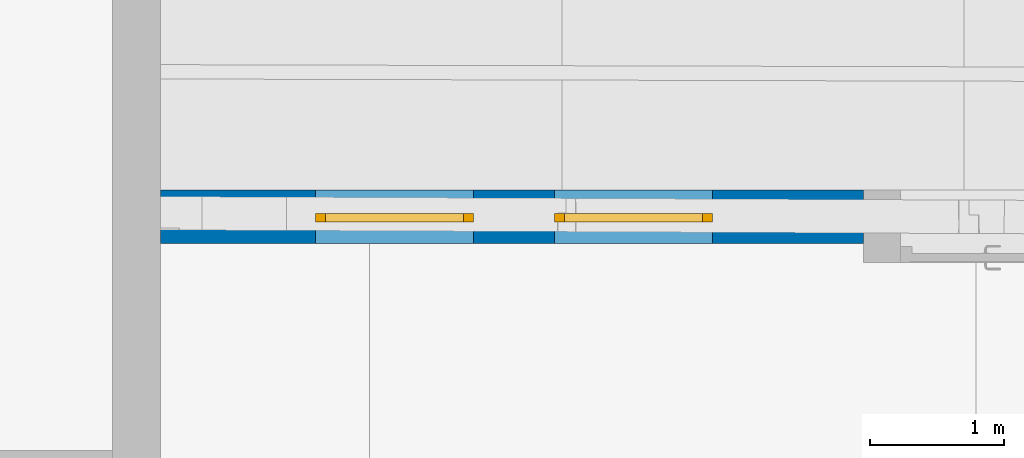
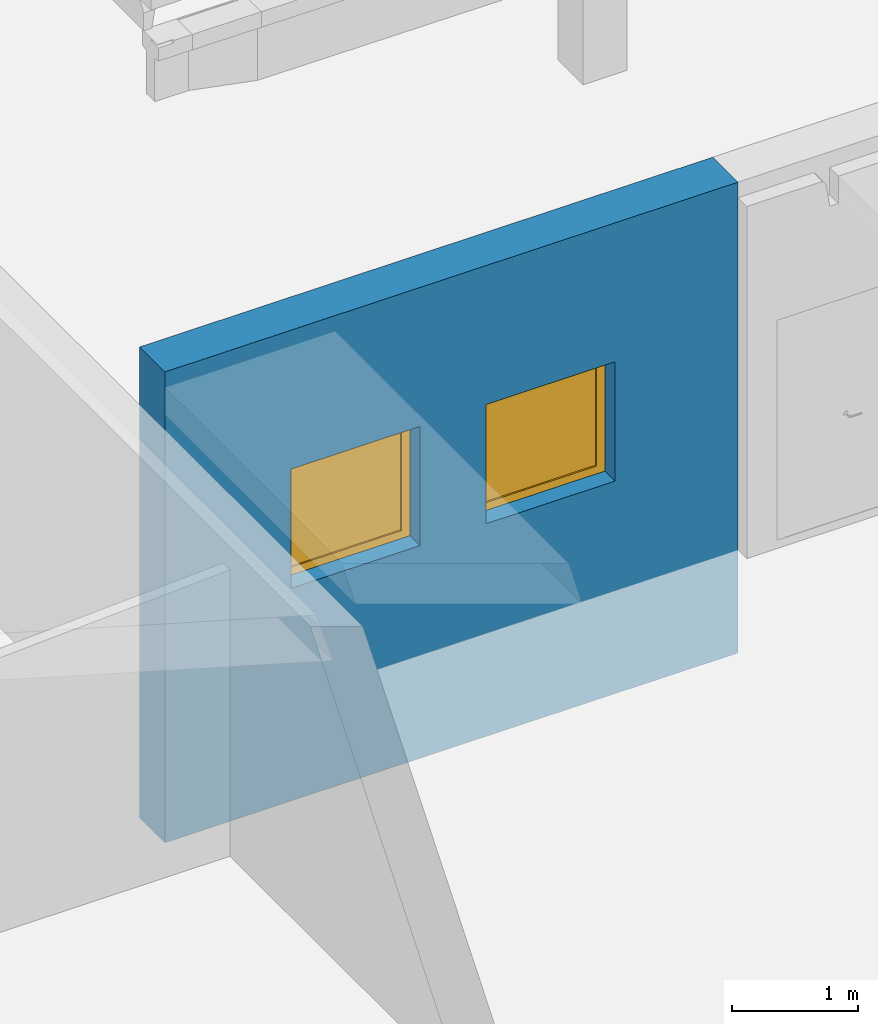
# One storey, part 86 of 301: 2 windows, 1 wall, 2 openings.
"""IFC2X3 building model written with IfcOpenShell, lengths in millimetres."""

from ifc_helpers import new_model, entity, si_unit, converted_unit, derived_unit, money_unit, direction, frame, origin_with_axes, place, context, subcontext, project, spatial, open_shell, faceted_brep, surface_model, source, transform, mapped, material, type_object, element, fill, save


model = new_model("IFC2X3")

# Units and contexts
model_context = context("Model", 3, precision=0.01, world=origin_with_axes(), true_north=direction((0.0, 1.0)))
body_context = subcontext(model_context, "Body", "Model", "MODEL_VIEW")
ifc_project = project(units=[si_unit("LENGTHUNIT", "METRE", prefix="MILLI"), si_unit("AREAUNIT", "SQUARE_METRE"), si_unit("VOLUMEUNIT", "CUBIC_METRE"), converted_unit("PLANEANGLEUNIT", "DEGREE", entity("IfcPlaneAngleMeasure", 0.0174532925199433), si_unit("PLANEANGLEUNIT", "RADIAN"), dimensions=[0, 0, 0, 0, 0, 0, 0]), money_unit("EUR"), converted_unit("TIMEUNIT", "Year", entity("IfcTimeMeasure", 31557600.0), si_unit("TIMEUNIT", "SECOND"), dimensions=[0, 0, 1, 0, 0, 0, 0]), si_unit("MASSUNIT", "GRAM", prefix="KILO"), si_unit("THERMODYNAMICTEMPERATUREUNIT", "DEGREE_CELSIUS"), si_unit("LUMINOUSINTENSITYUNIT", "LUMEN"), si_unit("ENERGYUNIT", "JOULE", prefix="MEGA"), derived_unit("THERMALCONDUCTANCEUNIT", [(si_unit("POWERUNIT", "WATT"), 1), (si_unit("LENGTHUNIT", "METRE"), -1), (si_unit("THERMODYNAMICTEMPERATUREUNIT", "KELVIN"), -1)]), derived_unit("SPECIFICHEATCAPACITYUNIT", [(si_unit("ENERGYUNIT", "JOULE"), 1), (si_unit("MASSUNIT", "GRAM", prefix="KILO"), -1), (si_unit("THERMODYNAMICTEMPERATUREUNIT", "KELVIN"), -1)]), derived_unit("MASSDENSITYUNIT", [(si_unit("MASSUNIT", "GRAM", prefix="KILO"), 1), (si_unit("VOLUMEUNIT", "CUBIC_METRE"), -1)])], contexts=[model_context])

# Site, building, storey
site_placement = place(None, frame((0.0, 0.0, 8650.0), z_axis=(0.0, 0.0, 1.0), x_axis=(1.0, 0.0, 0.0)))
site = spatial("IfcSite", under=ifc_project, at=site_placement, Name="43301:001:0844", CompositionType="ELEMENT")
building_placement = place(site_placement, origin_with_axes())
building = spatial("IfcBuilding", under=site, at=building_placement, Name="Kuressaare Ametikooli tuulikute mehaanikute õppekorpus", CompositionType="ELEMENT")
storey_placement = place(building_placement, origin_with_axes())
storey = spatial("IfcBuildingStorey", under=building, at=storey_placement, Name="1.korrus", CompositionType="ELEMENT", Elevation=0.0)

# Wall, openings, windows
ifc_material = material(Name="GENEERILINE - KONSTRUKTRIOON")
wall_type = type_object("IfcWallType", Name="GENEERILINE - KONSTRUKTRIOON 400", PredefinedType="NOTDEFINED")
wall_placement = place(storey_placement, frame((93508.56510495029, 37845.7716648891, -1000.0), z_axis=(0.0, 0.0, 1.0), x_axis=(-1.0, 0.0, 0.0)))
wall = element("IfcWall", 1, at=wall_placement, inside=storey, type_object=wall_type, material=ifc_material, context=body_context, shape_type="Brep", body=[
    faceted_brep([(0.0, 0.0, 4560.000000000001), (5249.808658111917, 0.0, 4560.000000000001), (5249.808658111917, 0.0, 0.0), (0.0, 0.0, 0.0), (2913.811038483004, 0.0, 3215.0), (2913.811038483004, 0.0, 2060.0), (4093.811038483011, 0.0, 2060.0), (4093.811038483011, 0.0, 3215.0), (2307.919134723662, 0.0, 2060.0), (2307.919134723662, 0.0, 3215.0), (1127.919134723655, 0.0, 3215.0), (1127.919134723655, 0.0, 2060.0), (0.0, -399.9999999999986, 4560.000000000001), (5249.808658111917, -399.9999999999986, 4560.000000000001), (5249.808658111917, -399.9999999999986, 0.0), (0.0, -399.9999999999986, 0.0), (2913.811038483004, -399.9999999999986, 3215.0), (2913.811038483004, -399.9999999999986, 2060.0), (4093.811038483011, -399.9999999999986, 2060.0), (4093.811038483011, -399.9999999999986, 3215.0), (2307.919134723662, -399.9999999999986, 2060.0), (2307.919134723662, -399.9999999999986, 3215.0), (1127.919134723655, -399.9999999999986, 3215.0), (1127.919134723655, -399.9999999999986, 2060.0)], [[[0, 1, 2, 3], [4, 5, 6, 7], [8, 9, 10, 11]], [[12, 13, 1, 0]], [[1, 13, 14, 2]], [[3, 2, 14, 15]], [[15, 12, 0, 3]], [[4, 16, 17, 5]], [[17, 18, 6, 5]], [[18, 19, 7, 6]], [[7, 19, 16, 4]], [[9, 8, 20, 21]], [[22, 10, 9, 21]], [[23, 11, 10, 22]], [[8, 11, 23, 20]], [[15, 14, 13, 12], [19, 18, 17, 16], [23, 22, 21, 20]]]),
])
opening_1_placement = place(wall_placement, frame((3503.811038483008, 0.0, 2060.0), z_axis=(0.0, 0.0, 1.0), x_axis=(1.0, 0.0, 0.0)))
opening_1 = element("IfcOpeningElement", 2, at=opening_1_placement, cuts=wall, Name="SA-XX", context=body_context, shape_type="Brep", body=[
    faceted_brep([(590.0000000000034, -225.0000000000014, 0.0), (590.0000000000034, -225.0000000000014, 1155.0), (590.0000000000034, -400.9999999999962, 1155.0), (590.0000000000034, -400.9999999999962, 0.0), (590.0000000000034, 1.000000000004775, 0.0), (590.0000000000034, 1.000000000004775, 1155.0), (-590.0000000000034, -224.9999999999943, 1155.0), (-590.0000000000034, -400.9999999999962, 1155.0), (-590.0000000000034, 1.00000000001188, 1155.0), (-590.0000000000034, -400.9999999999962, 0.0), (-590.0000000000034, -225.0000000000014, 0.0), (-590.0000000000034, 1.000000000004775, 0.0)], [[[0, 1, 2, 3]], [[1, 0, 4, 5]], [[6, 7, 2, 1, 5, 8]], [[7, 9, 3, 2]], [[0, 3, 9, 10, 11, 4]], [[5, 4, 11, 8]], [[6, 10, 9, 7]], [[10, 6, 8, 11]]]),
])
opening_2_placement = place(wall_placement, frame((1717.919134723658, 0.0, 2060.0), z_axis=(0.0, 0.0, 1.0), x_axis=(1.0, 0.0, 0.0)))
opening_2 = element("IfcOpeningElement", 3, at=opening_2_placement, cuts=wall, Name="SA-XX", context=body_context, shape_type="Brep", body=[
    faceted_brep([(590.0000000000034, -225.0000000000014, 0.0), (590.0000000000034, -225.0000000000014, 1155.0), (590.0000000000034, -400.9999999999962, 1155.0), (590.0000000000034, -400.9999999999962, 0.0), (590.0000000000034, 1.00000000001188, 0.0), (590.0000000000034, 1.00000000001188, 1155.0), (-590.0000000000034, -224.9999999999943, 1155.0), (-590.0000000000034, -400.9999999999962, 1155.0), (-590.0000000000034, 1.000000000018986, 1155.0), (-590.0000000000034, -400.9999999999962, 0.0), (-590.0000000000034, -225.0000000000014, 0.0), (-590.0000000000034, 1.00000000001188, 0.0)], [[[0, 1, 2, 3]], [[1, 0, 4, 5]], [[6, 7, 2, 1, 5, 8]], [[7, 9, 3, 2]], [[0, 3, 9, 10, 11, 4]], [[5, 4, 11, 8]], [[6, 10, 9, 7]], [[10, 6, 8, 11]]]),
])
window_style = type_object("IfcWindowStyle", Name="Window 27", ConstructionType="NOTDEFINED", OperationType="SINGLE_PANEL", ParameterTakesPrecedence=False, Sizeable=False)
shared_shape = source(origin_with_axes(), body_context, "Body", "SurfaceModel", [
    faceted_brep([(515.0, -65.00000000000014, 1080.0), (590.0, -65.00000000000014, 1080.0), (590.0, 0.0, 1080.0), (515.0, 0.0, 1080.0), (515.0, -65.00000000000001, 75.0), (590.0, -65.00000000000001, 75.0), (590.0, 0.0, 75.00000000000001), (515.0, 0.0, 75.00000000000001)], [[[0, 1, 2, 3]], [[0, 4, 5, 1]], [[1, 5, 6, 2]], [[3, 2, 6, 7]], [[4, 0, 3, 7]], [[5, 4, 7, 6]]]),
    faceted_brep([(-515.0, -65.00000000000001, 75.0), (-590.0, -65.00000000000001, 75.0), (-590.0, 0.0, 75.00000000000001), (-515.0, 0.0, 75.00000000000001), (-515.0, -65.00000000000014, 1080.0), (-590.0, -65.00000000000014, 1080.0), (-590.0, 0.0, 1080.0), (-515.0, 0.0, 1080.0)], [[[0, 1, 2, 3]], [[0, 4, 5, 1]], [[1, 5, 6, 2]], [[3, 2, 6, 7]], [[4, 0, 3, 7]], [[5, 4, 7, 6]]]),
    faceted_brep([(515.0, -65.00000000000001, 75.0), (590.0, -65.00000000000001, 75.0), (590.0, 0.0, 75.00000000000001), (515.0, 0.0, 75.00000000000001), (-515.0, -65.00000000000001, 75.0), (-590.0, -65.00000000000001, 75.0), (-590.0, -65.0, 0.0), (590.0, -65.0, 0.0), (590.0, 0.0, 0.0), (-590.0, 0.0, 0.0), (-590.0, 0.0, 75.00000000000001), (-515.0, 0.0, 75.00000000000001)], [[[0, 1, 2, 3]], [[0, 4, 5, 6, 7, 1]], [[1, 7, 8, 2]], [[3, 2, 8, 9, 10, 11]], [[4, 0, 3, 11]], [[5, 4, 11, 10]], [[6, 5, 10, 9]], [[7, 6, 9, 8]]]),
    faceted_brep([(-515.0, -65.00000000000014, 1080.0), (-590.0, -65.00000000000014, 1080.0), (-590.0, 0.0, 1080.0), (-515.0, 0.0, 1080.0), (515.0, -65.00000000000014, 1080.0), (590.0, -65.00000000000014, 1080.0), (590.0, -65.00000000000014, 1155.0), (-590.0, -65.00000000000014, 1155.0), (-590.0, 0.0, 1155.0), (590.0, 0.0, 1155.0), (590.0, 0.0, 1080.0), (515.0, 0.0, 1080.0)], [[[0, 1, 2, 3]], [[0, 4, 5, 6, 7, 1]], [[1, 7, 8, 2]], [[3, 2, 8, 9, 10, 11]], [[4, 0, 3, 11]], [[5, 4, 11, 10]], [[6, 5, 10, 9]], [[7, 6, 9, 8]]]),
    surface_model("IfcShellBasedSurfaceModel", [(515.0, -35.0, 75.0), (515.0, -35.00000000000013, 1080.0), (-515.0, -35.00000000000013, 1080.0), (-515.0, -35.0, 75.0)], [open_shell([[[0, 1, 2, 3]]])]),
    surface_model("IfcShellBasedSurfaceModel", [(515.0, -15.0, 75.0), (-515.0, -15.0, 75.0), (-515.0, -15.00000000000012, 1080.0), (515.0, -15.00000000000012, 1080.0)], [open_shell([[[0, 1, 2, 3]]])]),
])
window_1_placement = place(opening_1_placement, frame((-590.0000000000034, 0.0, 0.0), z_axis=(0.0, 0.0, 1.0), x_axis=(1.0, 0.0, 0.0)))
window_1 = element("IfcWindow", 4, at=window_1_placement, inside=storey, type_object=window_style, Name="SA-XX", OverallHeight=1155.0, OverallWidth=1180.0, context=body_context, shape_type="MappedRepresentation", body=[
    mapped(shared_shape, transform((590.0000000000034, -159.9999999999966, 0.0))),
])
fill(opening_1, window_1)
window_2_placement = place(opening_2_placement, frame((-590.0000000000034, 0.0, 0.0), z_axis=(0.0, 0.0, 1.0), x_axis=(1.0, 0.0, 0.0)))
window_2 = element("IfcWindow", 5, at=window_2_placement, inside=storey, type_object=window_style, Name="SA-XX", OverallHeight=1155.0, OverallWidth=1180.0, context=body_context, shape_type="MappedRepresentation", body=[
    mapped(shared_shape, transform((590.0000000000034, -159.9999999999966, 0.0))),
])
fill(opening_2, window_2)

save(model, "model.ifc")
